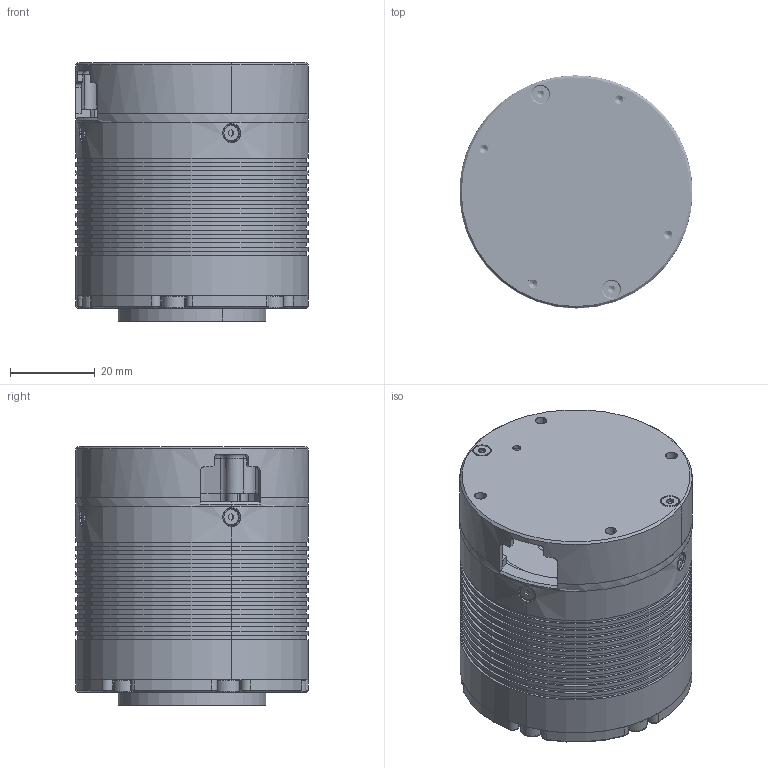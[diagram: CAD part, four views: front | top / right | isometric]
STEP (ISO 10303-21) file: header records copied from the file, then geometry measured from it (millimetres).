
FILE_DESCRIPTION (( 'STEP AP203' ), '1' );
FILE_NAME ('RMD-X4-P36-36-E-L.STEP', '2026-04-29T02:51:41', ( '' ), ( '' ), 'SwSTEP 2.0', 'SolidWorks 2020', '' );
FILE_SCHEMA (( 'CONFIG_CONTROL_DESIGN' ));
Length unit declared in the file: millimetre
Products named in the file (13): 44PH36-13L-5-0-03; XMT.105.011_Default_偌樓馱_; 8MT.013.210-驱动后盖 A0; RMD-X4-P36-36-E-L; GBT70_1_M3X12-O; 56ZWCO60LEG36-3_0_0-01; M2X14; OEM-X4-P36-27 熬厒儂; 122ZWCO64LE-2_0_0-11; X4傷裔-綴傷假蚾; 44PH36-13L-3-0-00MC_ASM; 56ZWCO60LEG36-3_0_0-02; 44PH36-13L-5-0-00_ASM
Assembly tree (23 placements, depth 4):
  RMD-X4-P36-36-E-L
    56ZWCO60LEG36-3_0_0-02
    44PH36-13L-3-0-00MC_ASM
      44PH36-13L-5-0-00_ASM
        44PH36-13L-5-0-03
    56ZWCO60LEG36-3_0_0-01
    GBT70_1_M3X12-O  x6
    122ZWCO64LE-2_0_0-11  x6
    M2X14  x2
    OEM-X4-P36-27 熬厒儂
      XMT.105.011_Default_偌樓馱_
    8MT.013.210-驱动后盖 A0
    X4傷裔-綴傷假蚾
Bounding box: 55 x 55 x 61 mm (x, y, z)
Volume: 18847.5 mm3; surface area: 50994.4 mm2
Topology: 11 solids, 39 shells, 1562 faces, 4142 edges, 2615 vertices
Faces by surface type: cylinder 774, plane 334, cone 221, bspline 202, sphere 16, torus 15
Entity records: 39583 total; most frequent: CARTESIAN_POINT 14505, DIRECTION 5170, ORIENTED_EDGE 4754, EDGE_CURVE 2405, AXIS2_PLACEMENT_3D 2116, VERTEX_POINT 1537, CIRCLE 1171, EDGE_LOOP 1092
